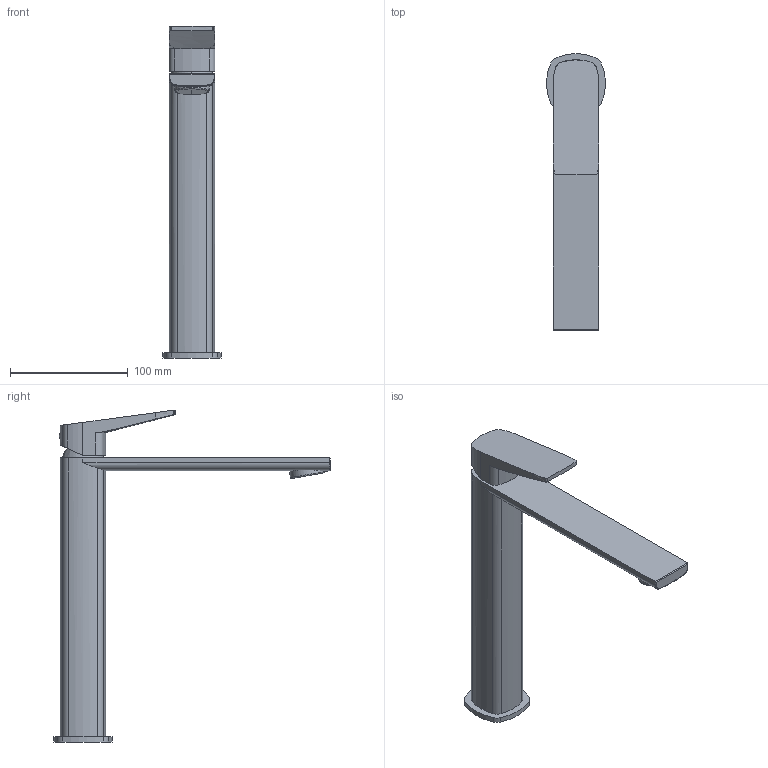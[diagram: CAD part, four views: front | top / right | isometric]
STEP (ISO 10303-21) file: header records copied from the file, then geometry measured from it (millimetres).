
FILE_DESCRIPTION(('FreeCAD Model'),'2;1');
FILE_NAME('Open CASCADE Shape Model','2024-11-19T13:50:20',('Author'),( ''),'Open CASCADE STEP processor 7.6','FreeCAD','Unknown');
FILE_SCHEMA(('AUTOMOTIVE_DESIGN { 1 0 10303 214 1 1 1 1 }'));
Length unit declared in the file: millimetre
Products named in the file (3): TopLevelAssembly; Obrót profilu; Połączona geometria bryłowa
Assembly tree (2 placements, depth 2):
  TopLevelAssembly
    Obrót profilu
    Połączona geometria bryłowa
Bounding box: 49.71 x 234.85 x 281.92 mm (x, y, z)
Volume: 457397.1 mm3; surface area: 64751.5 mm2
Topology: 2 solids, 2 shells, 71 faces, 174 edges, 108 vertices
Faces by surface type: cylinder 42, plane 17, bspline 12
Entity records: 2389 total; most frequent: CARTESIAN_POINT 689, DIRECTION 352, ORIENTED_EDGE 344, EDGE_CURVE 172, AXIS2_PLACEMENT_3D 144, VERTEX_POINT 108, FACE_BOUND 74, EDGE_LOOP 74
